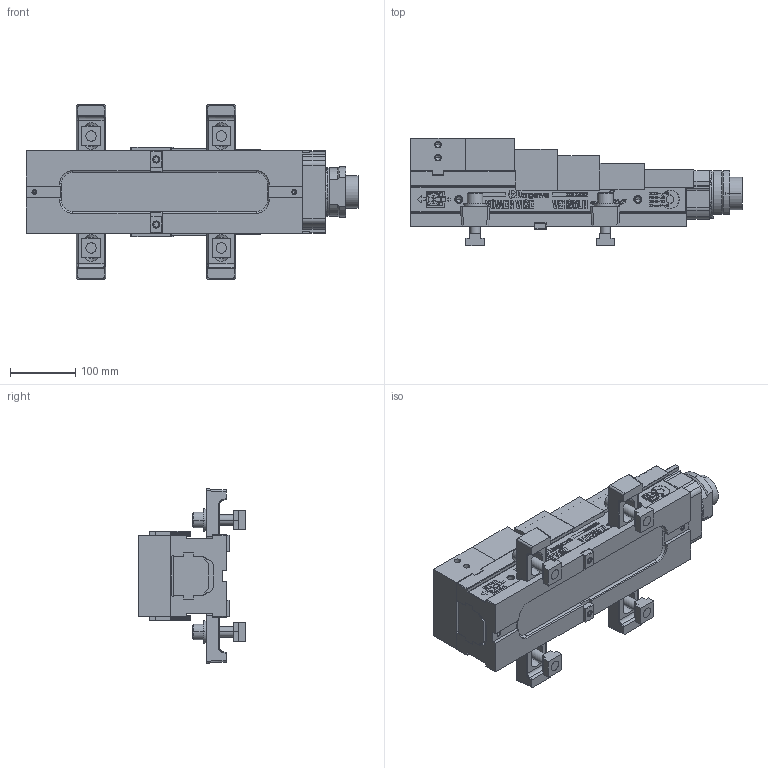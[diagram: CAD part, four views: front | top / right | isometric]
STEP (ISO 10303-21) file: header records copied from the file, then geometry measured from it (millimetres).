
FILE_DESCRIPTION (( 'STEP AP214' ), '1' );
FILE_NAME ('VE125LN_C.STEP', '2023-08-04T05:51:13', ( '' ), ( '' ), 'SwSTEP 2.0', 'SolidWorks 2020', '' );
FILE_SCHEMA (( 'AUTOMOTIVE_DESIGN' ));
Length unit declared in the file: millimetre
Products named in the file (21): クランプクミタテ(61M420565); 僗儔僀僪僇僶乕Y(61M3523283)VE125; ガイドブロック(61M4197783); リボルバ部; Bアナツキ M16×65; スプリングケース(61M3522051); 僕儑乕俵(61M3963740)VE125N; 僗儔僀僪僇僶乕X(61M3895311)VE125L; エンドカバー(61M4224142)VQ125A; 僕儑乕俥(61M3963730)VE125N; T僗儘僢僩僫僢僩俿俶俵侾俉侾俇; 僗儔僀僪僇僶乕Z(61M3523293)VE125L; 僗儔僀僪僇僶乕W(61M3895301)VE125L; 僒僀僪僔乕儖L(61M2680330); 僒僀僪僔乕儖R(61M2680320); 儚僢僔儍丂16乮61M4266330乯; ボデー(61M2541131)VE125L; クランプ(61M3159626)VP160; カバーリング(61M4399252)VE160N; VE125LN_C; VE125LNホンタイ
Assembly tree (24 placements, depth 3):
  VE125LN_C
    VE125LNホンタイ
      ボデー(61M2541131)VE125L
      僕儑乕俥(61M3963730)VE125N
      僕儑乕俵(61M3963740)VE125N
      スプリングケース(61M3522051)
      カバーリング(61M4399252)VE160N
      リボルバ部
      ガイドブロック(61M4197783)  x2
      僗儔僀僪僇僶乕Y(61M3523283)VE125
      僗儔僀僪僇僶乕Z(61M3523293)VE125L
      エンドカバー(61M4224142)VQ125A
      僗儔僀僪僇僶乕W(61M3895301)VE125L
      僗儔僀僪僇僶乕X(61M3895311)VE125L
      僒僀僪僔乕儖L(61M2680330)
      僒僀僪僔乕儖R(61M2680320)
    クランプクミタテ(61M420565)  x4
      クランプ(61M3159626)VP160
      儚僢僔儍丂16乮61M4266330乯
      Bアナツキ M16×65
      T僗儘僢僩僫僢僩俿俶俵侾俉侾俇
Bounding box: 510 x 165 x 268 mm (x, y, z)
Volume: 6230674.9 mm3; surface area: 698213.9 mm2
Topology: 31 solids, 31 shells, 1195 faces, 6284 edges, 5445 vertices
Faces by surface type: plane 828, cylinder 264, cone 79, bspline 13, torus 11
Entity records: 70782 total; most frequent: CARTESIAN_POINT 19135, ORIENTED_EDGE 11482, DIRECTION 7773, EDGE_CURVE 5741, VERTEX_POINT 5115, LINE 4723, VECTOR 4723, AXIS2_PLACEMENT_3D 1525
